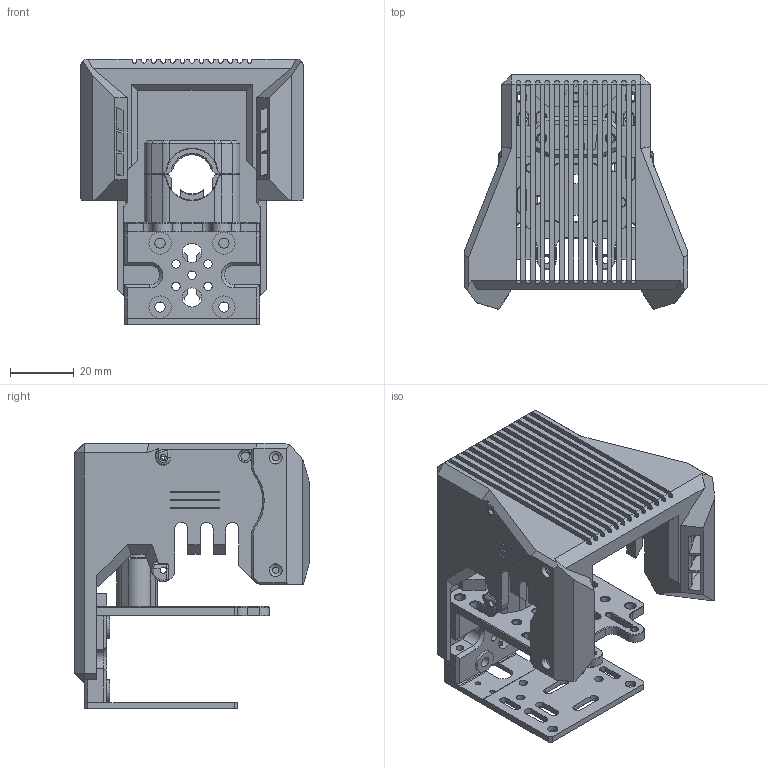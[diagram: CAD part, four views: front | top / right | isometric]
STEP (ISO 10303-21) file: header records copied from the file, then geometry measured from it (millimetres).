
FILE_DESCRIPTION(/* description */ (''),/* implementation_level */ '2;1');
FILE_NAME(/* name */ 'C:/Users/Ben/Desktop/x carriage setup.step',/* time_stamp */ '2020-08-29T21:54:54+03:00',/* author */ (''),/* organization */ (''),/* preprocessor_version */ 'ST-DEVELOPER v18.1',/* originating_system */ 'Autodesk Translation Framework v9.3.0.1241',/* authorisation */ '');
FILE_SCHEMA (('AUTOMOTIVE_DESIGN { 1 0 10303 214 3 1 1 }'));
Length unit declared in the file: millimetre
Products named in the file (9): X carriage metal; X carriage; X carriage - Block shiled Twin; X carriage metal_1; Top block; Front plate; Rear Plate; V6 Locker; V6 mount
Assembly tree (8 placements, depth 3):
  X carriage metal
    X carriage
      X carriage - Block shiled Twin
    X carriage metal_1
      Top block
      Front plate
      Rear Plate
      V6 Locker
      V6 mount
Bounding box: 69.98 x 73.35 x 83 mm (x, y, z)
Volume: 55196.5 mm3; surface area: 52431.9 mm2
Topology: 6 solids, 6 shells, 1281 faces, 3594 edges, 2295 vertices
Faces by surface type: plane 712, cylinder 288, cone 126, bspline 121, torus 34
Full cylindrical faces by diameter (mm): 1 x2, 1.6 x4, 2 x12, 2.1 x2, 2.5 x12, 2.6 x7, 2.7 x4, 3 x4, 3.2 x23, 4 x4, 6 x2, 6.2 x2, 6.5 x4, 7 x4
Entity records: 43993 total; most frequent: CARTESIAN_POINT 10711, ORIENTED_EDGE 7182, DIRECTION 6459, EDGE_CURVE 3591, LINE 2425, VECTOR 2425, VERTEX_POINT 2295, AXIS2_PLACEMENT_3D 2017
